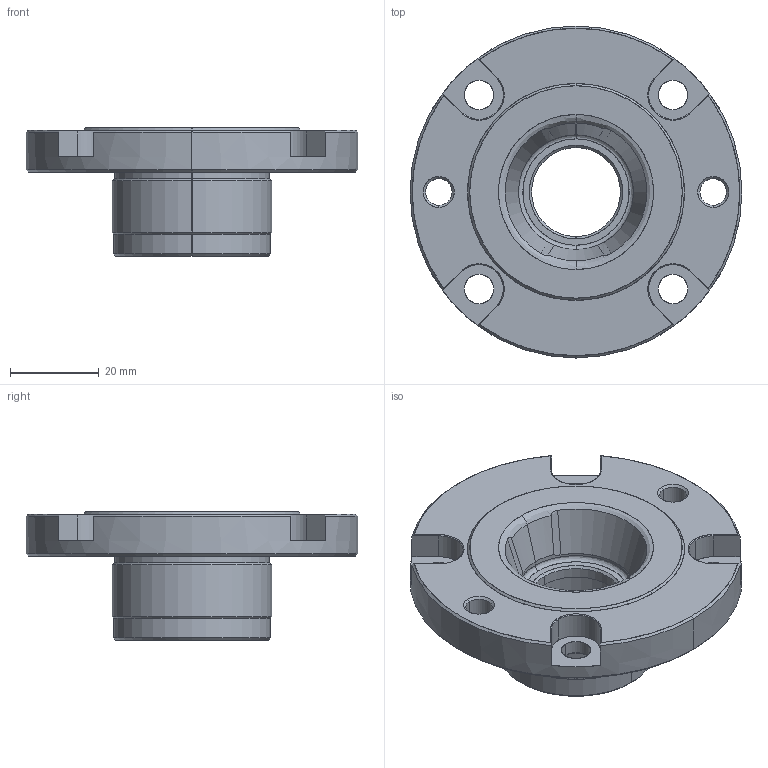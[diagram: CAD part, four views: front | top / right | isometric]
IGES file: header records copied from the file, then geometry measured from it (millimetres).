
Start section: SolidWorks IGES file using analytic representation for surfaces
Global section: file name: X:\11_SW2020-Inv2020\00_全2021-11新製品まで\a\AMWF50-BU-D\amwf50-bu-d.IGS; native system: SolidWorks 2020; preprocessor: SolidWorks 2020; author: ImaoCorp; date: 211021.163545; units: millimetre
Bounding box: 75 x 75 x 29 mm (x, y, z)
Surface area: 15193.5 mm2 (no closed solid volume)
Topology: 0 solids, 0 shells, 124 faces, 1807 edges, 1807 vertices
Faces by surface type: revolution 88, bspline 36
